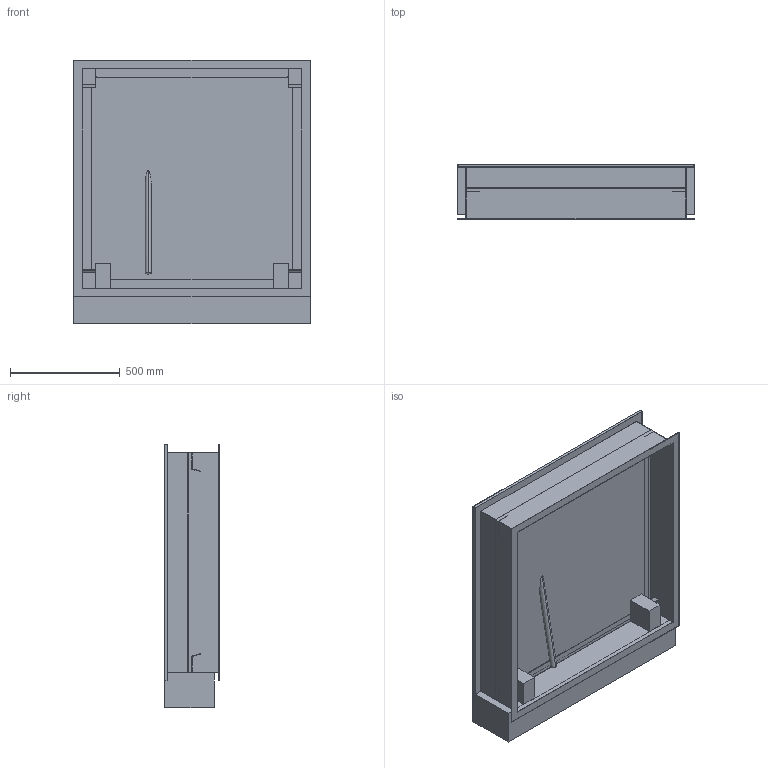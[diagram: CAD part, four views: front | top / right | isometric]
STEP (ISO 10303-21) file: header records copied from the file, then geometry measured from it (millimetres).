
FILE_DESCRIPTION((''),'2;1');
FILE_NAME('51585407','2021-02-26T11:38:41',('hrl'),('HUBER SE'),'CREO PARAMETRIC BY PTC INC, 2019224','CREO PARAMETRIC BY PTC INC, 2019224','');
FILE_SCHEMA(('AUTOMOTIVE_DESIGN { 1 0 10303 214 1 1 1 1 }'));
Length unit declared in the file: millimetre
Products named in the file (1): 51585407
Bounding box: 1078 x 250 x 1200 mm (x, y, z)
Volume: 144682364 mm3; surface area: 5916955.9 mm2
Topology: 1 solids, 1 shells, 142 faces, 392 edges, 250 vertices
Faces by surface type: plane 110, cylinder 32
Entity records: 5212 total; most frequent: CARTESIAN_POINT 846, ORIENTED_EDGE 784, DIRECTION 758, EDGE_CURVE 392, VECTOR 306, LINE 306, VERTEX_POINT 250, AXIS2_PLACEMENT_3D 226
